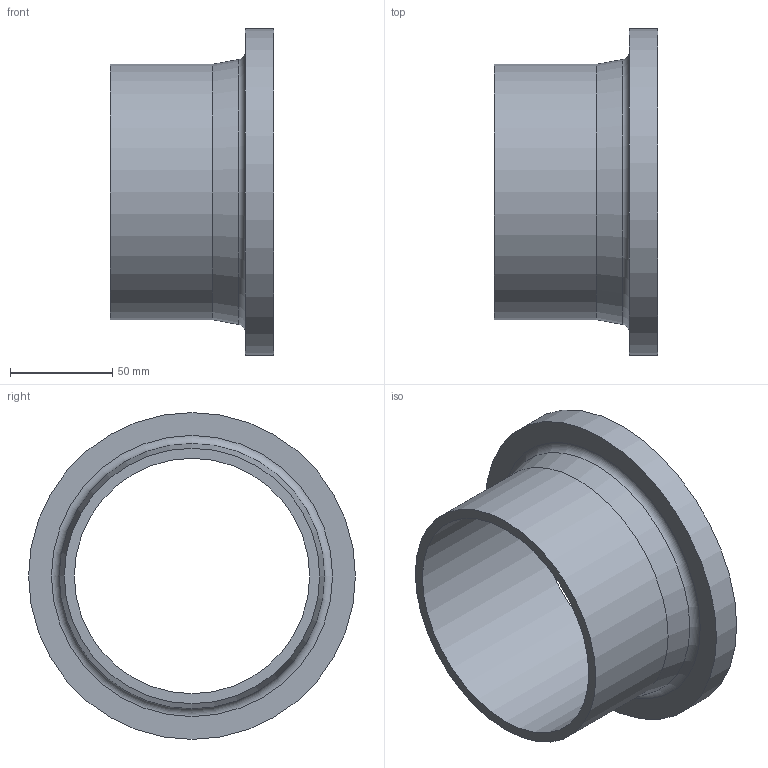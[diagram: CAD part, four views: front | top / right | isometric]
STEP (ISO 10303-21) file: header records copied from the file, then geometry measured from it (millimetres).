
FILE_DESCRIPTION(/* description */ (''),/* implementation_level */ '2;1');
FILE_NAME(/* name */ 'Z:\Geberit\Export\NewStep\368744.stp',/* time_stamp */ '2014-04-02T08:01:26+02:00',/* author */ ('nelson'),/* organization */ (''),/* preprocessor_version */ 'ST-DEVELOPER v15.2',/* originating_system */ 'Autodesk Inventor 2014',/* authorisation */ '');
FILE_SCHEMA (('AUTOMOTIVE_DESIGN { 1 0 10303 214 3 1 1 }'));
Length unit declared in the file: millimetre
Products named in the file (1): 368744
Bounding box: 80 x 160 x 160 mm (x, y, z)
Volume: 266667.1 mm3; surface area: 80966.8 mm2
Topology: 1 solids, 1 shells, 17 faces, 28 edges, 17 vertices
Faces by surface type: cone 7, plane 6, cylinder 3, torus 1
Full cylindrical faces by diameter (mm): 115.2 x1, 125 x1, 160 x1
Entity records: 386 total; most frequent: DIRECTION 70, CARTESIAN_POINT 52, AXIS2_PLACEMENT_3D 35, EDGE_LOOP 34, ORIENTED_EDGE 34, FACE_BOUND 21, STYLED_ITEM 18, CIRCLE 17
